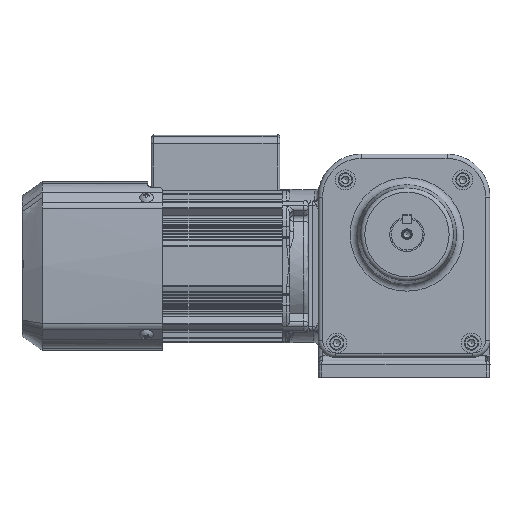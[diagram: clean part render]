
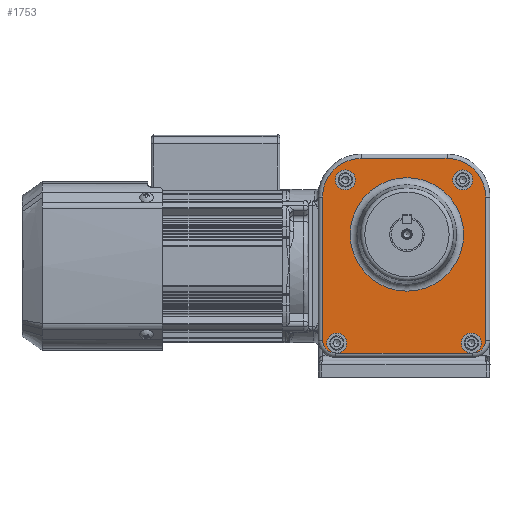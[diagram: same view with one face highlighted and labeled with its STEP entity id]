
A CAD part, front view. The second image highlights one B-rep face of the part: STEP entity #1753.
In plain terms, the highlighted planar face has unit normal (0, -1, 0).
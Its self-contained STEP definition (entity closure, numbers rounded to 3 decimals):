
#1753 = ADVANCED_FACE( '', ( #4443, #4444, #4445, #4446 ), #4447, .F. );
#4443 = FACE_BOUND( '', #10891, .T. );
#4444 = FACE_BOUND( '', #10892, .T. );
#4445 = FACE_BOUND( '', #10893, .T. );
#4446 = FACE_OUTER_BOUND( '', #10894, .T. );
#4447 = PLANE( '', #10895 );
#10891 = EDGE_LOOP( '', ( #23258 ) );
#10892 = EDGE_LOOP( '', ( #23259 ) );
#10893 = EDGE_LOOP( '', ( #23260 ) );
#10894 = EDGE_LOOP( '', ( #23261, #23262, #23263, #23264, #23265, #23266, #23267, #23268, #23269, #23270, #23271, #23272 ) );
#10895 = AXIS2_PLACEMENT_3D( '', #23273, #23274, #23275 );
#23258 = ORIENTED_EDGE( '', *, *, #32932, .T. );
#23259 = ORIENTED_EDGE( '', *, *, #32933, .T. );
#23260 = ORIENTED_EDGE( '', *, *, #32105, .T. );
#23261 = ORIENTED_EDGE( '', *, *, #32934, .T. );
#23262 = ORIENTED_EDGE( '', *, *, #32935, .T. );
#23263 = ORIENTED_EDGE( '', *, *, #32936, .T. );
#23264 = ORIENTED_EDGE( '', *, *, #32937, .T. );
#23265 = ORIENTED_EDGE( '', *, *, #32938, .T. );
#23266 = ORIENTED_EDGE( '', *, *, #32939, .T. );
#23267 = ORIENTED_EDGE( '', *, *, #32940, .T. );
#23268 = ORIENTED_EDGE( '', *, *, #32941, .T. );
#23269 = ORIENTED_EDGE( '', *, *, #32422, .T. );
#23270 = ORIENTED_EDGE( '', *, *, #32942, .T. );
#23271 = ORIENTED_EDGE( '', *, *, #32943, .T. );
#23272 = ORIENTED_EDGE( '', *, *, #32944, .T. );
#23273 = CARTESIAN_POINT( '', ( 130.498, -100.5, -34.734 ) );
#23274 = DIRECTION( '', ( 0., 1., 0. ) );
#23275 = DIRECTION( '', ( 0., 0., -1. ) );
#32105 = EDGE_CURVE( '', #36790, #36790, #36791, .T. );
#32422 = EDGE_CURVE( '', #37364, #37362, #37365, .F. );
#32932 = EDGE_CURVE( '', #38173, #38173, #38174, .T. );
#32933 = EDGE_CURVE( '', #38175, #38175, #38176, .T. );
#32934 = EDGE_CURVE( '', #38177, #38178, #38179, .F. );
#32935 = EDGE_CURVE( '', #38178, #38178, #38180, .T. );
#32936 = EDGE_CURVE( '', #38178, #38181, #38182, .F. );
#32937 = EDGE_CURVE( '', #38181, #38183, #38184, .F. );
#32938 = EDGE_CURVE( '', #38183, #38185, #38186, .F. );
#32939 = EDGE_CURVE( '', #38185, #38187, #38188, .F. );
#32940 = EDGE_CURVE( '', #38187, #38189, #38190, .F. );
#32941 = EDGE_CURVE( '', #38189, #37364, #38191, .F. );
#32942 = EDGE_CURVE( '', #37362, #38192, #38193, .F. );
#32943 = EDGE_CURVE( '', #38192, #38177, #38194, .F. );
#32944 = EDGE_CURVE( '', #38177, #38177, #38195, .T. );
#36790 = VERTEX_POINT( '', #45125 );
#36791 = CIRCLE( '', #45126, 39.648 );
#37362 = VERTEX_POINT( '', #45920 );
#37364 = VERTEX_POINT( '', #45922 );
#37365 = LINE( '', #45923, #45924 );
#38173 = VERTEX_POINT( '', #48067 );
#38174 = CIRCLE( '', #48068, 7. );
#38175 = VERTEX_POINT( '', #48069 );
#38176 = CIRCLE( '', #48070, 7. );
#38177 = VERTEX_POINT( '', #48071 );
#38178 = VERTEX_POINT( '', #48072 );
#38179 = LINE( '', #48073, #48074 );
#38180 = CIRCLE( '', #48075, 7. );
#38181 = VERTEX_POINT( '', #48076 );
#38182 = LINE( '', #48077, #48078 );
#38183 = VERTEX_POINT( '', #48079 );
#38184 = CIRCLE( '', #48080, 9. );
#38185 = VERTEX_POINT( '', #48081 );
#38186 = LINE( '', #48082, #48083 );
#38187 = VERTEX_POINT( '', #48084 );
#38188 = CIRCLE( '', #48085, 27. );
#38189 = VERTEX_POINT( '', #48086 );
#38190 = LINE( '', #48087, #48088 );
#38191 = CIRCLE( '', #48089, 27. );
#38192 = VERTEX_POINT( '', #48090 );
#38193 = CIRCLE( '', #48091, 9. );
#38194 = LINE( '', #48092, #48093 );
#38195 = CIRCLE( '', #48094, 7. );
#45125 = CARTESIAN_POINT( '', ( 84.498, -100.5, -0.491 ) );
#45126 = AXIS2_PLACEMENT_3D( '', #55975, #55976, #55977 );
#45920 = CARTESIAN_POINT( '', ( 25.498, -100.5, -34.734 ) );
#45922 = CARTESIAN_POINT( '', ( 25.498, -100.5, 65.266 ) );
#45923 = CARTESIAN_POINT( '', ( 25.498, -100.5, -34.734 ) );
#45924 = VECTOR( '', #56614, 1000. );
#48067 = CARTESIAN_POINT( '', ( 41.498, -100.5, 84.266 ) );
#48068 = AXIS2_PLACEMENT_3D( '', #57214, #57215, #57216 );
#48069 = CARTESIAN_POINT( '', ( 123.498, -100.5, 84.266 ) );
#48070 = AXIS2_PLACEMENT_3D( '', #57217, #57218, #57219 );
#48071 = CARTESIAN_POINT( '', ( 35.498, -100.5, -43.734 ) );
#48072 = CARTESIAN_POINT( '', ( 129.498, -100.5, -43.734 ) );
#48073 = CARTESIAN_POINT( '', ( 130.498, -100.5, -43.734 ) );
#48074 = VECTOR( '', #57220, 1000. );
#48075 = AXIS2_PLACEMENT_3D( '', #57221, #57222, #57223 );
#48076 = CARTESIAN_POINT( '', ( 130.498, -100.5, -43.734 ) );
#48077 = CARTESIAN_POINT( '', ( 130.498, -100.5, -43.734 ) );
#48078 = VECTOR( '', #57224, 1000. );
#48079 = CARTESIAN_POINT( '', ( 139.498, -100.5, -34.734 ) );
#48080 = AXIS2_PLACEMENT_3D( '', #57225, #57226, #57227 );
#48081 = CARTESIAN_POINT( '', ( 139.498, -100.5, 65.266 ) );
#48082 = CARTESIAN_POINT( '', ( 139.498, -100.5, 65.266 ) );
#48083 = VECTOR( '', #57228, 1000. );
#48084 = CARTESIAN_POINT( '', ( 112.498, -100.5, 92.266 ) );
#48085 = AXIS2_PLACEMENT_3D( '', #57229, #57230, #57231 );
#48086 = CARTESIAN_POINT( '', ( 52.498, -100.5, 92.266 ) );
#48087 = CARTESIAN_POINT( '', ( 52.498, -100.5, 92.266 ) );
#48088 = VECTOR( '', #57232, 1000. );
#48089 = AXIS2_PLACEMENT_3D( '', #57233, #57234, #57235 );
#48090 = CARTESIAN_POINT( '', ( 34.498, -100.5, -43.734 ) );
#48091 = AXIS2_PLACEMENT_3D( '', #57236, #57237, #57238 );
#48092 = CARTESIAN_POINT( '', ( 130.498, -100.5, -43.734 ) );
#48093 = VECTOR( '', #57239, 1000. );
#48094 = AXIS2_PLACEMENT_3D( '', #57240, #57241, #57242 );
#55975 = CARTESIAN_POINT( '', ( 84.498, -100.5, 39.157 ) );
#55976 = DIRECTION( '', ( 0., 1., 0. ) );
#55977 = DIRECTION( '', ( 0., 0., -1. ) );
#56614 = DIRECTION( '', ( 0., 0., 1. ) );
#57214 = CARTESIAN_POINT( '', ( 41.498, -100.5, 77.266 ) );
#57215 = DIRECTION( '', ( 0., 1., 0. ) );
#57216 = DIRECTION( '', ( 0., 0., 1. ) );
#57217 = CARTESIAN_POINT( '', ( 123.498, -100.5, 77.266 ) );
#57218 = DIRECTION( '', ( 0., 1., 0. ) );
#57219 = DIRECTION( '', ( 0., 0., 1. ) );
#57220 = DIRECTION( '', ( -1., 0., 0. ) );
#57221 = CARTESIAN_POINT( '', ( 129.498, -100.5, -36.734 ) );
#57222 = DIRECTION( '', ( 0., 1., 0. ) );
#57223 = DIRECTION( '', ( 0., 0., 1. ) );
#57224 = DIRECTION( '', ( -1., 0., 0. ) );
#57225 = CARTESIAN_POINT( '', ( 130.498, -100.5, -34.734 ) );
#57226 = DIRECTION( '', ( 0., 1., 0. ) );
#57227 = DIRECTION( '', ( 0., 0., -1. ) );
#57228 = DIRECTION( '', ( 0., 0., -1. ) );
#57229 = CARTESIAN_POINT( '', ( 112.498, -100.5, 65.266 ) );
#57230 = DIRECTION( '', ( 0., 1., 0. ) );
#57231 = DIRECTION( '', ( 0., 0., -1. ) );
#57232 = DIRECTION( '', ( 1., 0., 0. ) );
#57233 = CARTESIAN_POINT( '', ( 52.498, -100.5, 65.266 ) );
#57234 = DIRECTION( '', ( 0., 1., 0. ) );
#57235 = DIRECTION( '', ( 0., 0., -1. ) );
#57236 = CARTESIAN_POINT( '', ( 34.498, -100.5, -34.734 ) );
#57237 = DIRECTION( '', ( 0., 1., 0. ) );
#57238 = DIRECTION( '', ( 0., 0., -1. ) );
#57239 = DIRECTION( '', ( -1., 0., 0. ) );
#57240 = CARTESIAN_POINT( '', ( 35.498, -100.5, -36.734 ) );
#57241 = DIRECTION( '', ( 0., 1., 0. ) );
#57242 = DIRECTION( '', ( 0., 0., 1. ) );
